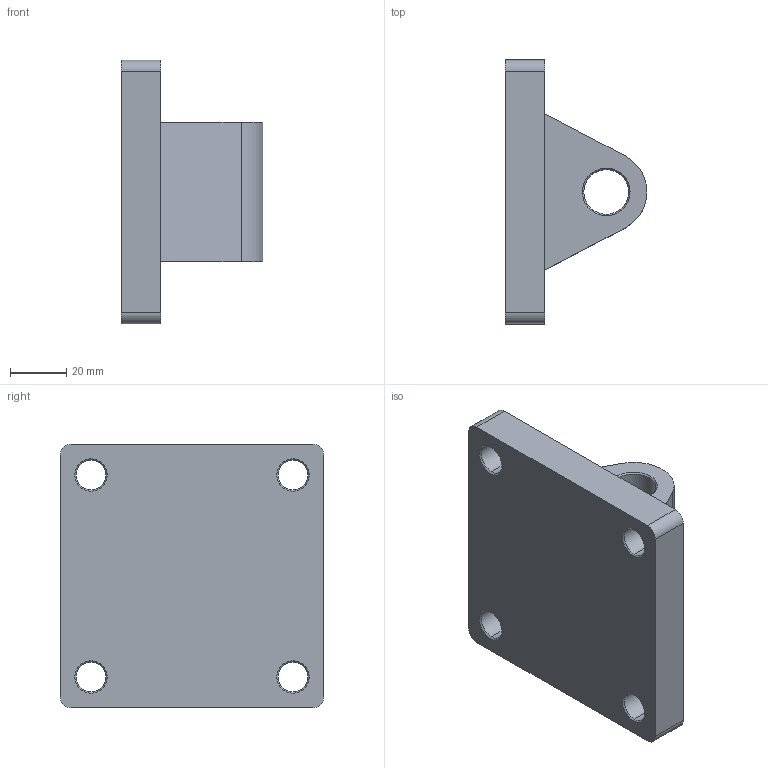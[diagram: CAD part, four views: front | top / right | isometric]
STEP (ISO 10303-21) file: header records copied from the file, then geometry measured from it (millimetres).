
FILE_DESCRIPTION (( 'STEP AP214' ), '1' );
FILE_NAME ('F-SI80CA.STEP', '2016-02-16T15:59:55', ( '' ), ( '' ), 'SwSTEP 2.0', 'SolidWorks 2016', '' );
FILE_SCHEMA (( 'AUTOMOTIVE_DESIGN' ));
Length unit declared in the file: millimetre
Products named in the file (1): F-SI80CA
Bounding box: 50.45 x 94 x 94 mm (x, y, z)
Volume: 172882.6 mm3; surface area: 30696.1 mm2
Topology: 1 solids, 1 shells, 65 faces, 146 edges, 88 vertices
Faces by surface type: cone 28, cylinder 23, plane 14
Entity records: 1864 total; most frequent: DIRECTION 352, CARTESIAN_POINT 300, ORIENTED_EDGE 292, EDGE_CURVE 146, AXIS2_PLACEMENT_3D 140, VERTEX_POINT 88, EDGE_LOOP 80, CIRCLE 74
